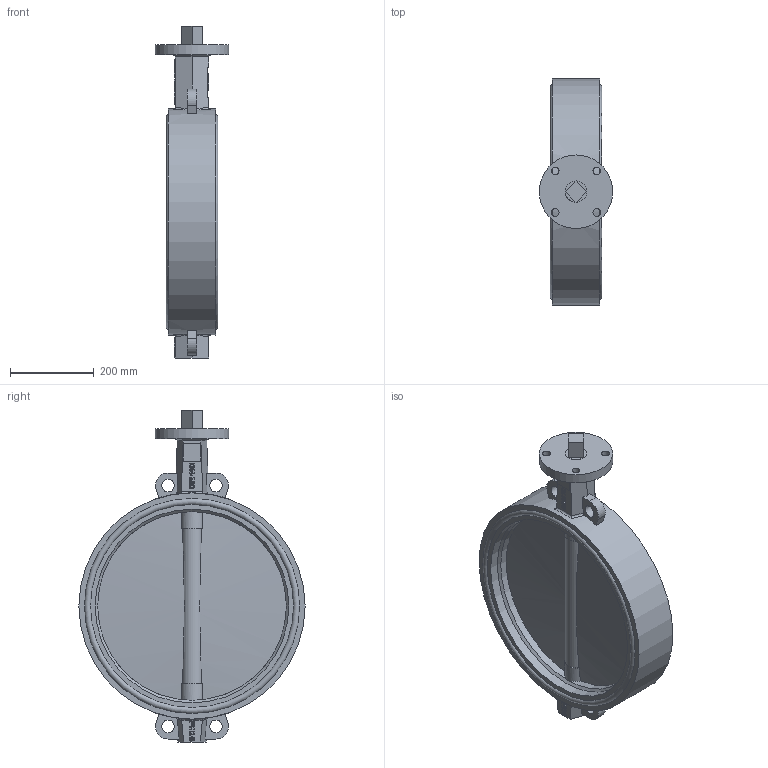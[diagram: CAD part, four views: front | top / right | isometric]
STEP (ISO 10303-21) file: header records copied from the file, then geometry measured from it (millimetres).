
FILE_DESCRIPTION(('STEP AP242'), '1');
FILE_NAME('Ïîâîðîòíûé çàòâîð ïîä ýëåêòðîïðèâîä', '', ('UNSPECIFIED'), ('UNSPECIFIED'), 'C3D Converter', 'C3D Toolkit', '');
FILE_SCHEMA(('AP242_MANAGED_MODEL_BASED_3D_ENGINEERING_MIM_LF { 1 0 10303 442 1 1 4 }'));
Length unit declared in the file: millimetre
Products named in the file (6): П
Assembly tree (6 placements, depth 2):
  (unnamed)
    (unnamed)
    П  x2
    (unnamed)
    (unnamed)
    (unnamed)
Bounding box: 175 x 539 x 791 mm (x, y, z)
Volume: 14086412.4 mm3; surface area: 1699467.6 mm2
Topology: 6 solids, 6 shells, 417 faces, 1094 edges, 722 vertices
Faces by surface type: plane 205, extrusion 135, cylinder 55, bspline 8, torus 6, cone 4, sphere 4
Full cylindrical faces by diameter (mm): 12.564 x1, 18 x4, 30 x4, 36 x6, 50.912 x5, 54.15 x4, 175 x1, 450 x1, 461.4 x2, 484.2 x2, 498.3 x4, 512.4 x4, 539 x1
Entity records: 18258 total; most frequent: CARTESIAN_POINT 6463, ORIENTED_EDGE 2080, DIRECTION 1500, EDGE_CURVE 1040, VERTEX_POINT 717, VECTOR 698, LINE 563, EDGE_LOOP 523
